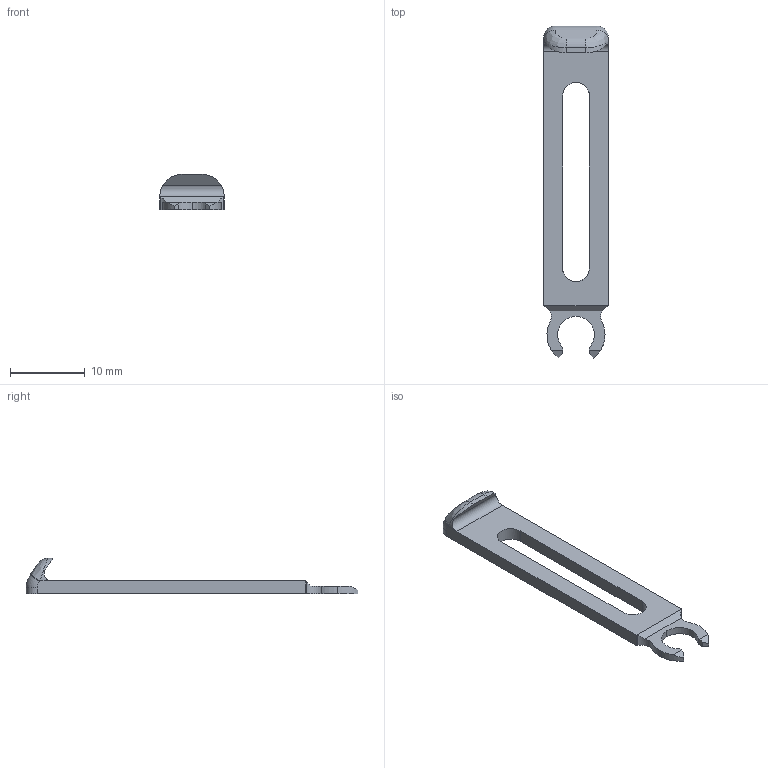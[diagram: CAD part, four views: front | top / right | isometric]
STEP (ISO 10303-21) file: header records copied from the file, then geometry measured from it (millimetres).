
FILE_DESCRIPTION(('CATIA V5 STEP Exchange'),'2;1');
FILE_NAME('C:\Users\Bruno-Win\Desktop\V2.1 Head\Tirette.stp','2021-03-26T07:38:54+00:00',('none'),('none'),'CATIA Version 5-6 Release 2017','CATIA V5 STEP AP203','none');
FILE_SCHEMA(('CONFIG_CONTROL_DESIGN'));
Length unit declared in the file: millimetre
Products named in the file (1): Part1
Bounding box: 8.6 x 44.3 x 4.7 mm (x, y, z)
Volume: 451 mm3; surface area: 819.4 mm2
Topology: 1 solids, 1 shells, 43 faces, 111 edges, 70 vertices
Faces by surface type: plane 20, cylinder 19, torus 2, bspline 2
Entity records: 1494 total; most frequent: CARTESIAN_POINT 451, ORIENTED_EDGE 222, DIRECTION 173, EDGE_CURVE 111, AXIS2_PLACEMENT_3D 70, VERTEX_POINT 70, VECTOR 65, LINE 65
